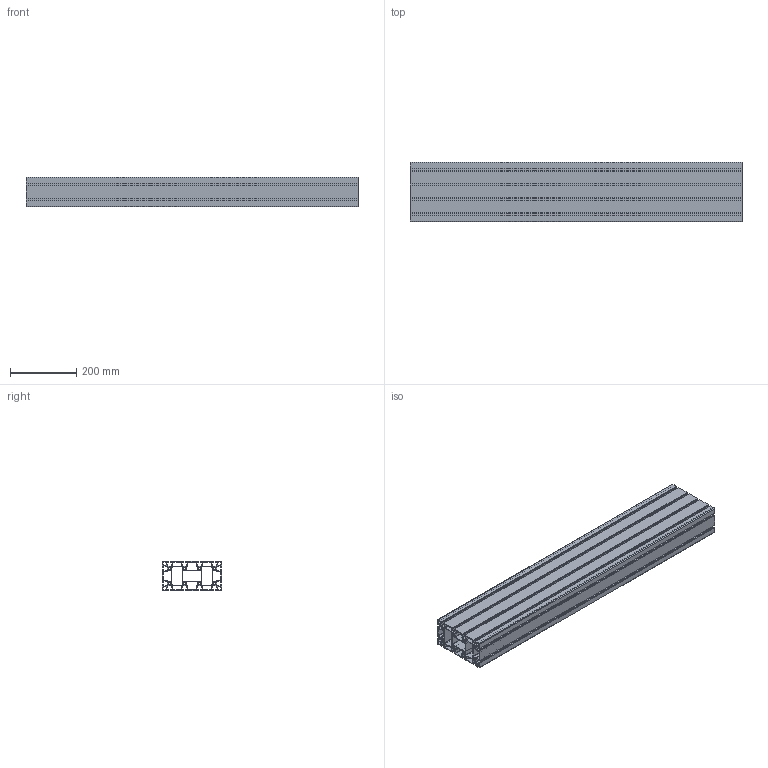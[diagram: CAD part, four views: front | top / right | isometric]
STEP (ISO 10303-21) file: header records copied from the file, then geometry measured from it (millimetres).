
FILE_DESCRIPTION (( 'STEP AP214' ), '1' );
FILE_NAME ('1.0211 90x180 HH 6m musta 1000mm.STEP', '2026-03-17T13:36:24', ( '' ), ( '' ), 'SwSTEP 2.0', 'SolidWorks 2025', '' );
FILE_SCHEMA (( 'AUTOMOTIVE_DESIGN' ));
Length unit declared in the file: millimetre
Products named in the file (1): 1.0211 90x180 HH 6m musta 1000mm
Bounding box: 1000 x 180 x 90 mm (x, y, z)
Volume: 3955076.8 mm3; surface area: 2686323 mm2
Topology: 1 solids, 1 shells, 625 faces, 1869 edges, 1246 vertices
Faces by surface type: cylinder 343, plane 282
Entity records: 21384 total; most frequent: DIRECTION 3807, CARTESIAN_POINT 3741, ORIENTED_EDGE 3738, EDGE_CURVE 1869, AXIS2_PLACEMENT_3D 1312, VERTEX_POINT 1246, LINE 1183, VECTOR 1183
